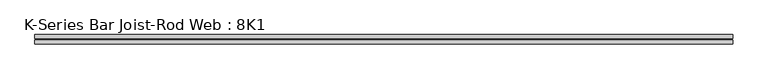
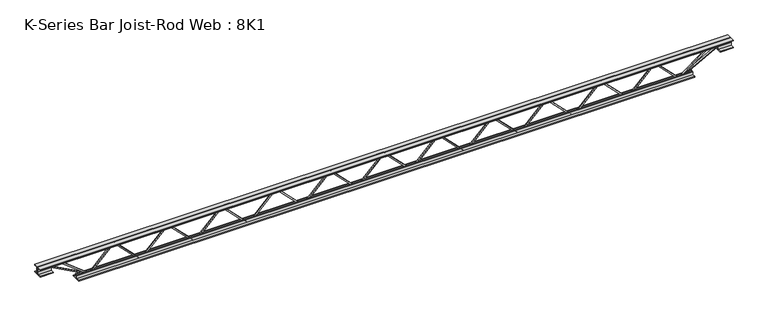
"""IFC4 building model written with IfcOpenShell, lengths in millimetres: beam geometry, K-Series Bar Joist-Rod Web : 8K1."""

from ifc_helpers import new_model, si_unit, frame, origin, place, context, project, spatial, polyline, outline, extrude, source, transform, mapped, element, save


def k_series_bar_joist_rod_web_8k1_97b35054(model_context):
    return source(origin(), model_context, "Body", "SweptSolid", [
        extrude(outline(polyline([(-90.4875, 1518.92), (-100.0125, 1518.92), (-100.0125, 1524.0832955), (90.4875, 1712.4666289), (90.4875, 1714.8400378), (-100.0125, 1903.2233711), (-100.0125, 1908.3866667), (-90.4875, 1908.3866667), (-90.4875, 1907.1999622), (100.0125, 1718.8166289), (100.0125, 1708.4900378), (-90.4875, 1520.1067045), (-90.4875, 1518.92)])), frame((0.0, -4.7625, 0.0), z_axis=(0.0, 1.0, 0.0), x_axis=(0.0, 0.0, 1.0)), (0.0, 0.0, 1.0), 9.525),
        extrude(outline(polyline([(-90.4875, 1090.5066667), (-100.0125, 1090.5066667), (-100.0125, 1095.6699622), (90.4875, 1284.0532955), (90.4875, 1286.4267045), (-100.0125, 1474.8100378), (-100.0125, 1479.9733333), (-90.4875, 1479.9733333), (-90.4875, 1478.7866289), (100.0125, 1290.4032955), (100.0125, 1280.0767045), (-90.4875, 1091.6933711), (-90.4875, 1090.5066667)])), frame((0.0, -4.7625, 0.0), z_axis=(0.0, 1.0, 0.0), x_axis=(0.0, 0.0, 1.0)), (0.0, 0.0, 1.0), 9.525),
        extrude(outline(polyline([(-90.4875, 662.0933333), (-100.0125, 662.0933333), (-100.0125, 667.2566289), (90.4875, 855.6399622), (90.4875, 858.0133711), (-100.0125, 1046.3967045), (-100.0125, 1051.56), (-90.4875, 1051.56), (-90.4875, 1050.3732955), (100.0125, 861.9899622), (100.0125, 851.6633711), (-90.4875, 663.2800378), (-90.4875, 662.0933333)])), frame((0.0, -4.7625, 0.0), z_axis=(0.0, 1.0, 0.0), x_axis=(0.0, 0.0, 1.0)), (0.0, 0.0, 1.0), 9.525),
        extrude(outline(polyline([(-90.4875, 233.68), (-100.0125, 233.68), (-100.0125, 238.8432955), (90.4875, 427.2266289), (90.4875, 429.6000378), (-100.0125, 617.9833711), (-100.0125, 623.1466667), (-90.4875, 623.1466667), (-90.4875, 621.9599622), (100.0125, 433.5766289), (100.0125, 423.2500378), (-90.4875, 234.8667045), (-90.4875, 233.68)])), frame((0.0, -4.7625, 0.0), z_axis=(0.0, 1.0, 0.0), x_axis=(0.0, 0.0, 1.0)), (0.0, 0.0, 1.0), 9.525),
        extrude(outline(polyline([(-90.4875, -194.7333333), (-100.0125, -194.7333333), (-100.0125, -189.5700378), (90.4875, -1.1867045), (90.4875, 1.1867045), (-100.0125, 189.5700378), (-100.0125, 194.7333333), (-90.4875, 194.7333333), (-90.4875, 193.5466289), (100.0125, 5.1632955), (100.0125, -5.1632955), (-90.4875, -193.5466289), (-90.4875, -194.7333333)])), frame((0.0, -4.7625, 0.0), z_axis=(0.0, 1.0, 0.0), x_axis=(0.0, 0.0, 1.0)), (0.0, 0.0, 1.0), 9.525),
        extrude(outline(polyline([(-90.4875, -623.1466667), (-100.0125, -623.1466667), (-100.0125, -617.9833711), (90.4875, -429.6000378), (90.4875, -427.2266289), (-100.0125, -238.8432955), (-100.0125, -233.68), (-90.4875, -233.68), (-90.4875, -234.8667045), (100.0125, -423.2500378), (100.0125, -433.5766289), (-90.4875, -621.9599622), (-90.4875, -623.1466667)])), frame((0.0, -4.7625, 0.0), z_axis=(0.0, 1.0, 0.0), x_axis=(0.0, 0.0, 1.0)), (0.0, 0.0, 1.0), 9.525),
        extrude(outline(polyline([(-90.4875, -1051.56), (-100.0125, -1051.56), (-100.0125, -1046.3967045), (90.4875, -858.0133711), (90.4875, -855.6399622), (-100.0125, -667.2566289), (-100.0125, -662.0933333), (-90.4875, -662.0933333), (-90.4875, -663.2800378), (100.0125, -851.6633711), (100.0125, -861.9899622), (-90.4875, -1050.3732955), (-90.4875, -1051.56)])), frame((0.0, -4.7625, 0.0), z_axis=(0.0, 1.0, 0.0), x_axis=(0.0, 0.0, 1.0)), (0.0, 0.0, 1.0), 9.525),
        extrude(outline(polyline([(-90.4875, -1479.9733333), (-100.0125, -1479.9733333), (-100.0125, -1474.8100378), (90.4875, -1286.4267045), (90.4875, -1284.0532955), (-100.0125, -1095.6699622), (-100.0125, -1090.5066667), (-90.4875, -1090.5066667), (-90.4875, -1091.6933711), (100.0125, -1280.0767045), (100.0125, -1290.4032955), (-90.4875, -1478.7866289), (-90.4875, -1479.9733333)])), frame((0.0, -4.7625, 0.0), z_axis=(0.0, 1.0, 0.0), x_axis=(0.0, 0.0, 1.0)), (0.0, 0.0, 1.0), 9.525),
        extrude(outline(polyline([(-90.4875, -1908.3866667), (-100.0125, -1908.3866667), (-100.0125, -1903.2233711), (90.4875, -1714.8400378), (90.4875, -1712.4666289), (-100.0125, -1524.0832955), (-100.0125, -1518.92), (-90.4875, -1518.92), (-90.4875, -1520.1067045), (100.0125, -1708.4900378), (100.0125, -1718.8166289), (-90.4875, -1907.1999622), (-90.4875, -1908.3866667)])), frame((0.0, -4.7625, 0.0), z_axis=(0.0, 1.0, 0.0), x_axis=(0.0, 0.0, 1.0)), (0.0, 0.0, 1.0), 9.525),
        extrude(outline(polyline([(-90.4875, 1947.3333333), (-100.0125, 1947.3333333), (-100.0125, 1952.4966289), (90.4875, 2140.8799622), (90.4875, 2143.2533711), (-100.0125, 2331.6367045), (-100.0125, 2336.8), (-90.4875, 2336.8), (-90.4875, 2335.6132955), (100.0125, 2147.2299622), (100.0125, 2136.9033711), (-90.4875, 1948.5200378), (-90.4875, 1947.3333333)])), frame((0.0, -4.7625, 0.0), z_axis=(0.0, 1.0, 0.0), x_axis=(0.0, 0.0, 1.0)), (0.0, 0.0, 1.0), 9.525),
        extrude(outline(polyline([(-90.4875, -2336.8), (-100.0125, -2336.8), (-100.0125, -2331.6367045), (90.4875, -2143.2533711), (90.4875, -2140.8799622), (-100.0125, -1952.4966289), (-100.0125, -1947.3333333), (-90.4875, -1947.3333333), (-90.4875, -1948.5200378), (100.0125, -2136.9033711), (100.0125, -2147.2299622), (-90.4875, -2335.6132955), (-90.4875, -2336.8)])), frame((0.0, -4.7625, 0.0), z_axis=(0.0, 1.0, 0.0), x_axis=(0.0, 0.0, 1.0)), (0.0, 0.0, 1.0), 9.525),
        extrude(outline(polyline([(4.7625, 101.6), (36.5125, 101.6), (36.5125, 95.25), (11.1125, 95.25), (11.1125, 69.85), (4.7625, 69.85), (4.7625, 101.6)])), frame((-2743.2, 0.0, 0.0), z_axis=(1.0, 0.0, 0.0), x_axis=(0.0, 1.0, 0.0)), (0.0, 0.0, 1.0), 5486.4),
        extrude(outline(polyline([(-4.7625, 101.6), (-4.7625, 69.85), (-11.1125, 69.85), (-11.1125, 95.25), (-36.5125, 95.25), (-36.5125, 101.6), (-4.7625, 101.6)])), frame((-2743.2, 0.0, 0.0), z_axis=(1.0, 0.0, 0.0), x_axis=(0.0, 1.0, 0.0)), (0.0, 0.0, 1.0), 5486.4),
        extrude(outline(polyline([(-4.7625, 38.1), (-36.5125, 38.1), (-36.5125, 44.45), (-11.1125, 44.45), (-11.1125, 69.85), (-4.7625, 69.85), (-4.7625, 38.1)])), frame((-2743.2, 0.0, 0.0), z_axis=(1.0, 0.0, 0.0), x_axis=(0.0, 1.0, 0.0)), (0.0, 0.0, 1.0), 101.6),
        extrude(outline(polyline([(36.5125, 38.1), (4.7625, 38.1), (4.7625, 69.85), (11.1125, 69.85), (11.1125, 44.45), (36.5125, 44.45), (36.5125, 38.1)])), frame((-2743.2, 0.0, 0.0), z_axis=(1.0, 0.0, 0.0), x_axis=(0.0, 1.0, 0.0)), (0.0, 0.0, 1.0), 101.6),
        extrude(outline(polyline([(4.7625, 38.1), (4.7625, 69.85), (11.1125, 69.85), (11.1125, 44.45), (36.5125, 44.45), (36.5125, 38.1), (4.7625, 38.1)])), frame((2641.6, 0.0, 0.0), z_axis=(1.0, 0.0, 0.0), x_axis=(0.0, 1.0, 0.0)), (0.0, 0.0, 1.0), 101.6),
        extrude(outline(polyline([(-4.7625, 38.1), (-36.5125, 38.1), (-36.5125, 44.45), (-11.1125, 44.45), (-11.1125, 69.85), (-4.7625, 69.85), (-4.7625, 38.1)])), frame((2641.6, 0.0, 0.0), z_axis=(1.0, 0.0, 0.0), x_axis=(0.0, 1.0, 0.0)), (0.0, 0.0, 1.0), 101.6),
        extrude(outline(polyline([(4.7625, -101.6), (4.7625, -69.85), (11.1125, -69.85), (11.1125, -95.25), (36.5125, -95.25), (36.5125, -101.6), (4.7625, -101.6)])), frame((-2438.4, 0.0, 0.0), z_axis=(1.0, 0.0, 0.0), x_axis=(0.0, 1.0, 0.0)), (0.0, 0.0, 1.0), 4876.8),
        extrude(outline(polyline([(-4.7625, -101.6), (-36.5125, -101.6), (-36.5125, -95.25), (-11.1125, -95.25), (-11.1125, -69.85), (-4.7625, -69.85), (-4.7625, -101.6)])), frame((-2438.4, 0.0, 0.0), z_axis=(1.0, 0.0, 0.0), x_axis=(0.0, 1.0, 0.0)), (0.0, 0.0, 1.0), 4876.8),
        extrude(outline(polyline([(0.0, -9.525), (0.0, 0.0), (346.6425392, 0.0), (346.6425392, -9.525), (0.0, -9.525)])), frame((-2643.8682985, 4.7625, 65.662372), z_axis=(0.47628314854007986, 0.0, 0.8792919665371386), x_axis=(0.8792919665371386, 0.0, -0.47628314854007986)), (0.0, 0.0, 1.0), 9.525),
        extrude(outline(polyline([(0.0, -9.525), (0.0, 0.0), (269.048729, 0.0), (269.048729, -9.525), (0.0, -9.525)])), frame((-2552.1588407, 4.7625, 66.0896099), z_axis=(0.6136434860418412, 0.0, 0.7895832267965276), x_axis=(0.7895832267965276, 0.0, -0.6136434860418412)), (0.0, 0.0, 1.0), 9.525),
        extrude(outline(polyline([(0.0, -9.525), (0.0, 0.0), (346.6425392, 0.0), (346.6425392, -9.525), (0.0, -9.525)])), frame((2643.8682985, -4.7625, 65.662372), z_axis=(-0.47628314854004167, 0.0, 0.8792919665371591), x_axis=(-0.8792919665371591, 0.0, -0.47628314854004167)), (0.0, 0.0, 1.0), 9.525),
        extrude(outline(polyline([(0.0, -9.525), (0.0, 0.0), (269.048729, 0.0), (269.048729, -9.525), (0.0, -9.525)])), frame((2552.1588407, -4.7625, 66.0896099), z_axis=(-0.6136434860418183, 0.0, 0.7895832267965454), x_axis=(-0.7895832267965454, 0.0, -0.6136434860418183)), (0.0, 0.0, 1.0), 9.525),
    ])


if __name__ == "__main__":
    model = new_model("IFC4")
    model_context = context("Model", 3, world=origin())
    ifc_project = project(units=[si_unit("LENGTHUNIT", "METRE", prefix="MILLI")], contexts=[model_context])
    site = spatial("IfcSite", under=ifc_project)
    building = spatial("IfcBuilding", under=site)
    placement = place(None, origin())
    k_series_bar_joist_rod_web_8k1_shape = k_series_bar_joist_rod_web_8k1_97b35054(model_context)
    element("IfcBeam", 1, ObjectType="K-Series Bar Joist-Rod Web : 8K1", at=placement, inside=building, context=model_context, shape_type="MappedRepresentation", body=[
        mapped(k_series_bar_joist_rod_web_8k1_shape, transform((0.0, 0.0, 0.0), x_axis=(1.0, 0.0, 0.0), y_axis=(0.0, 1.0, 0.0), z_axis=(0.0, 0.0, 1.0))),
    ])
    save(model, "model.ifc")
